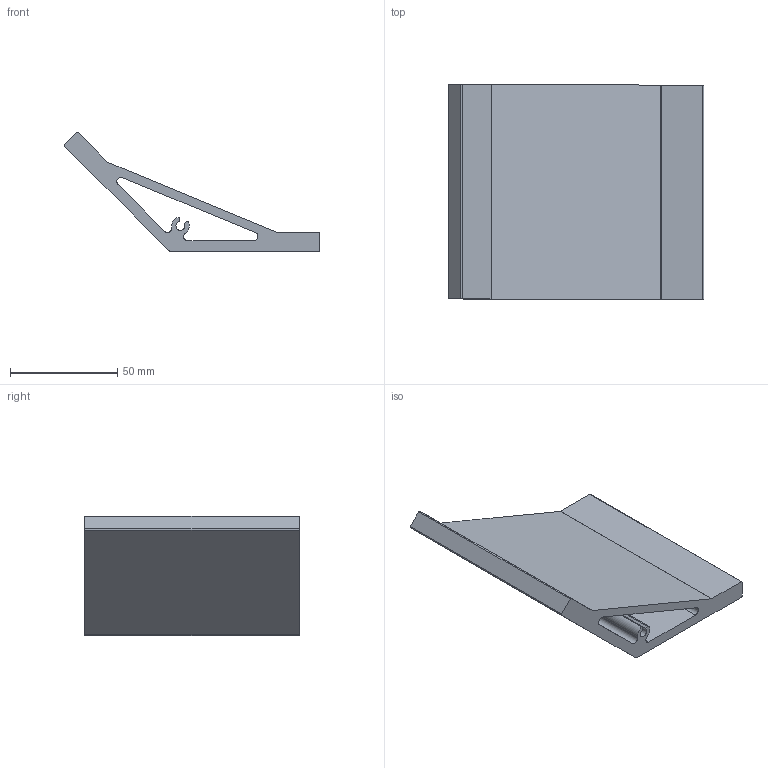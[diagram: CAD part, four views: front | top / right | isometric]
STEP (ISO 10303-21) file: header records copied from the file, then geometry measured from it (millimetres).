
FILE_DESCRIPTION(/* description */ ('Unknown'),/* implementation_level */ '2;1');
FILE_NAME(/* name */ 'AAG07007009',/* time_stamp */ '2018-10-17T09:33:12+01:00',/* author */ ('Unknown'),/* organization */ ('Unknown'),/* preprocessor_version */ 'ST-DEVELOPER v16.7',/* originating_system */ 'DEX',/* authorisation */ $);
FILE_SCHEMA (('AUTOMOTIVE_DESIGN {1 0 10303 214 3 1 1}'));
Length unit declared in the file: millimetre
Products named in the file (1): AAG07007009
Bounding box: 119.29 x 100 x 55.65 mm (x, y, z)
Volume: 128402.7 mm3; surface area: 48544.3 mm2
Topology: 1 solids, 1 shells, 30 faces, 84 edges, 56 vertices
Faces by surface type: cylinder 16, plane 14
Entity records: 1014 total; most frequent: DIRECTION 178, CARTESIAN_POINT 171, ORIENTED_EDGE 168, EDGE_CURVE 84, AXIS2_PLACEMENT_3D 63, VERTEX_POINT 56, LINE 52, VECTOR 52
